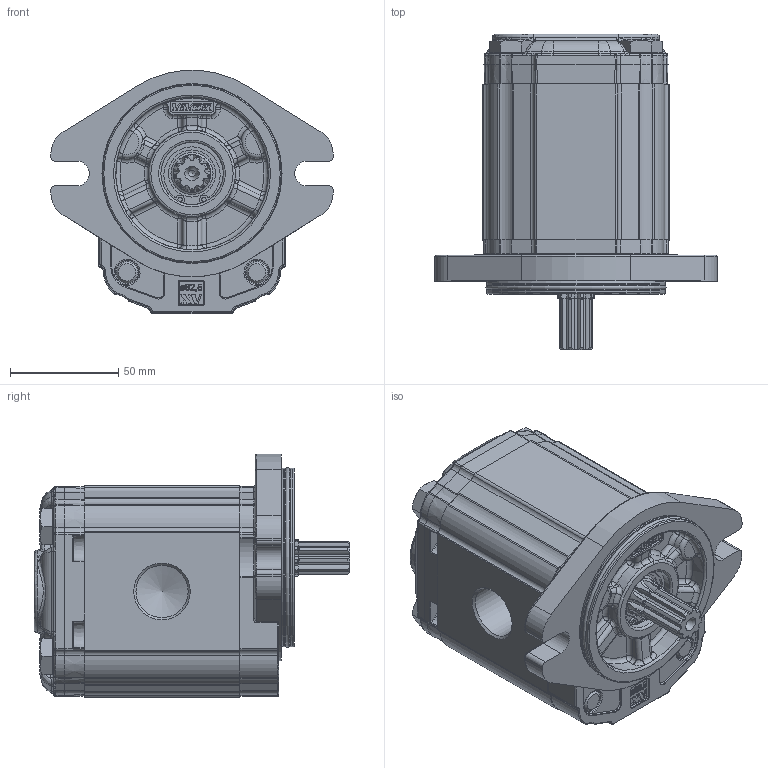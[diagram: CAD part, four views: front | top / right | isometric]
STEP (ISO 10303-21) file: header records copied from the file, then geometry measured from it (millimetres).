
FILE_DESCRIPTION(/* description */ ('Unknown'),/* implementation_level */ '2;1');
FILE_NAME(/* name */ 'X2P5352ICBA',/* time_stamp */ '2020-09-21T11:53:07+02:00',/* author */ ('Unknown'),/* organization */ ('Unknown'),/* preprocessor_version */ 'ST-DEVELOPER v16.7',/* originating_system */ 'DEX',/* authorisation */ $);
FILE_SCHEMA (('AUTOMOTIVE_DESIGN {1 0 10303 214 3 1 1}'));
Products named in the file (5): X2P5352ICBA; X2P52; 2I; X2CBH72; XP219-A
Assembly tree (4 placements, depth 2):
  X2P5352ICBA
    X2P52
    2I
    X2CBH72
    XP219-A
Bounding box: 130.38 x 145.7 x 112.3 mm (x, y, z)
Volume: 863055.4 mm3; surface area: 111140 mm2
Topology: 4 solids, 5 shells, 2195 faces, 5407 edges, 3280 vertices
Faces by surface type: cylinder 649, plane 589, bspline 570, torus 246, cone 103, sphere 38
Full cylindrical faces by diameter (mm): 2 x2, 10 x4, 10.5 x4, 11 x2, 16 x4, 17.42 x1, 17.48 x2, 18.724 x1, 19 x1, 20.595 x1, 21.741 x1, 24.117 x1, 25.834 x1, 28.56 x1, 28.57 x1, 28.8 x1, 30.4 x1, 79.6 x2, 82.5 x2
Entity records: 100887 total; most frequent: CARTESIAN_POINT 39076, ORIENTED_EDGE 10468, DIRECTION 8739, EDGE_CURVE 5234, AXIS2_PLACEMENT_3D 3323, VERTEX_POINT 3228, FACE_BOUND 2376, EDGE_LOOP 2372
